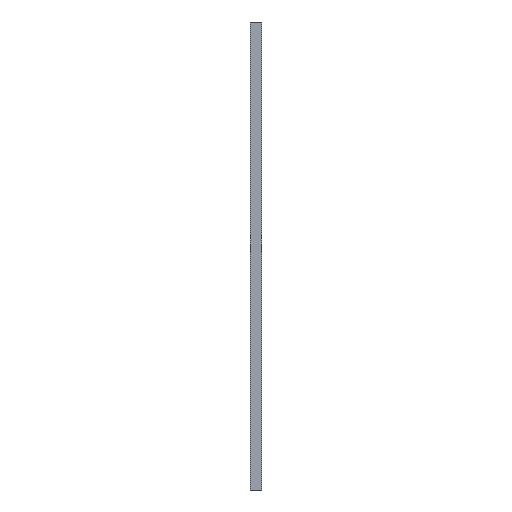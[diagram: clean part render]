
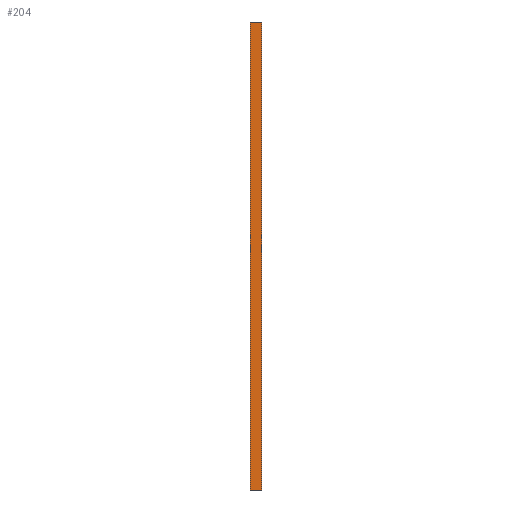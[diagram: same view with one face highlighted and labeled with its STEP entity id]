
A CAD part, left-side view. The second image highlights one B-rep face of the part: STEP entity #204.
In plain terms, the highlighted planar face has unit normal (-1, 0, 0).
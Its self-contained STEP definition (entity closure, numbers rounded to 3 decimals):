
#2 = EDGE_CURVE ( 'NONE', #209, #220, #9, .T. ) ;
#5 = LINE ( 'NONE', #6, #7 ) ;
#6 = CARTESIAN_POINT ( 'NONE',  ( 0., 0., -1000. ) ) ;
#7 = VECTOR ( 'NONE', #8, 1000. ) ;
#8 = DIRECTION ( 'NONE',  ( 0., 0., 1. ) ) ;
#9 = LINE ( 'NONE', #10, #11 ) ;
#10 = CARTESIAN_POINT ( 'NONE',  ( 0., 25.4, -1000. ) ) ;
#11 = VECTOR ( 'NONE', #12, 1000. ) ;
#12 = DIRECTION ( 'NONE',  ( 0., 0., 1. ) ) ;
#45 = LINE ( 'NONE', #46, #47 ) ;
#46 = CARTESIAN_POINT ( 'NONE',  ( 0., 0., 0. ) ) ;
#47 = VECTOR ( 'NONE', #48, 1000. ) ;
#48 = DIRECTION ( 'NONE',  ( 0., -1., 0. ) ) ;
#66 = CARTESIAN_POINT ( 'NONE',  ( 0., 0., -1000. ) ) ;
#72 = EDGE_LOOP ( 'NONE', ( #221, #210, #235, #207 ) ) ;
#78 = CARTESIAN_POINT ( 'NONE',  ( 0., 0., 0. ) ) ;
#83 = FACE_OUTER_BOUND ( 'NONE', #72, .T. ) ;
#84 = PLANE ( 'NONE',  #85 ) ;
#85 = AXIS2_PLACEMENT_3D ( 'NONE', #86, #87, #88 ) ;
#86 = CARTESIAN_POINT ( 'NONE',  ( 0., 0., -1000. ) ) ;
#87 = DIRECTION ( 'NONE',  ( -1., 0., 0. ) ) ;
#88 = DIRECTION ( 'NONE',  ( 0., 0., 1. ) ) ;
#92 = CARTESIAN_POINT ( 'NONE',  ( 0., 25.4, -1000. ) ) ;
#100 = LINE ( 'NONE', #101, #102 ) ;
#101 = CARTESIAN_POINT ( 'NONE',  ( 0., 0., -1000. ) ) ;
#102 = VECTOR ( 'NONE', #103, 1000. ) ;
#103 = DIRECTION ( 'NONE',  ( 0., -1., 0. ) ) ;
#104 = CARTESIAN_POINT ( 'NONE',  ( 0., 25.4, 0. ) ) ;
#108 = EDGE_CURVE ( 'NONE', #220, #201, #45, .T. ) ;
#198 = VERTEX_POINT ( 'NONE', #66 ) ;
#201 = VERTEX_POINT ( 'NONE', #78 ) ;
#204 = ADVANCED_FACE ( 'NONE', ( #83 ), #84, .T. ) ;
#207 = ORIENTED_EDGE ( 'NONE', *, *, #225, .T. ) ;
#209 = VERTEX_POINT ( 'NONE', #92 ) ;
#210 = ORIENTED_EDGE ( 'NONE', *, *, #2, .F. ) ;
#219 = EDGE_CURVE ( 'NONE', #209, #198, #100, .T. ) ;
#220 = VERTEX_POINT ( 'NONE', #104 ) ;
#221 = ORIENTED_EDGE ( 'NONE', *, *, #108, .F. ) ;
#225 = EDGE_CURVE ( 'NONE', #198, #201, #5, .T. ) ;
#235 = ORIENTED_EDGE ( 'NONE', *, *, #219, .T. ) ;
